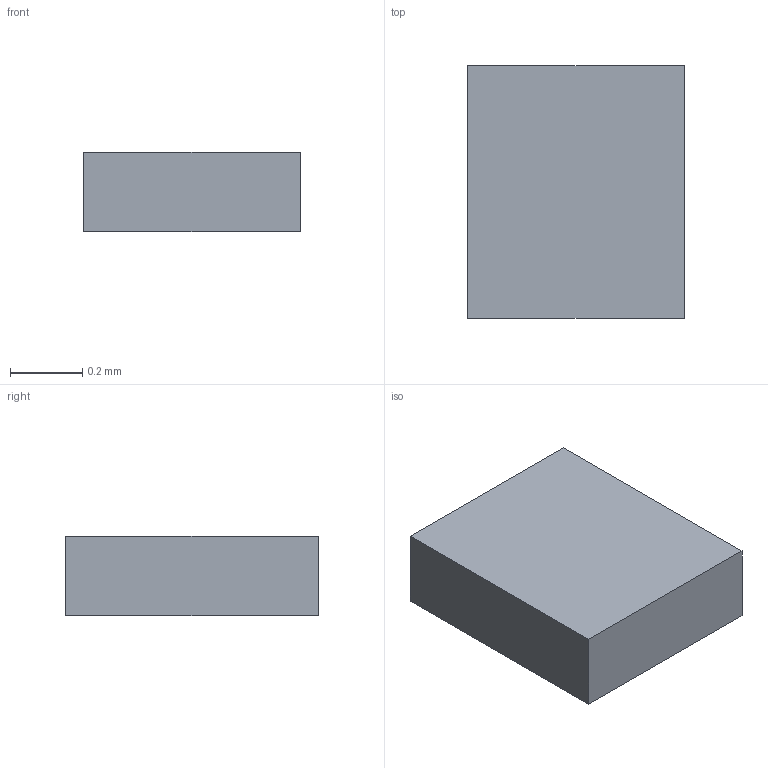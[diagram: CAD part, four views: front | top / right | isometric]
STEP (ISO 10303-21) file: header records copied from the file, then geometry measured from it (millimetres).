
FILE_DESCRIPTION(('Open CASCADE Model'),'2;1');
FILE_NAME('C27_UC1_LED_Saddle_Pad_2','2026-09-09T20:28:18',('Author'),( 'Open CASCADE'),'Open CASCADE STEP processor 7.9','build123d', 'Unknown');
FILE_SCHEMA(('AUTOMOTIVE_DESIGN { 1 0 10303 214 1 1 1 1 }'));
Length unit declared in the file: millimetre
Products named in the file (1): C27_UC1_LED_Saddle_Pad_2
Bounding box: 0.6 x 0.7 x 0.22 mm (x, y, z)
Volume: 0.1 mm3; surface area: 1.4 mm2
Topology: 1 solids, 1 shells, 6 faces, 12 edges, 8 vertices
Faces by surface type: plane 6
Entity records: 322 total; most frequent: CARTESIAN_POINT 51, DIRECTION 50, LINE 36, VECTOR 36, ORIENTED_EDGE 24, PCURVE 24, DEFINITIONAL_REPRESENTATION 24, EDGE_CURVE 12
